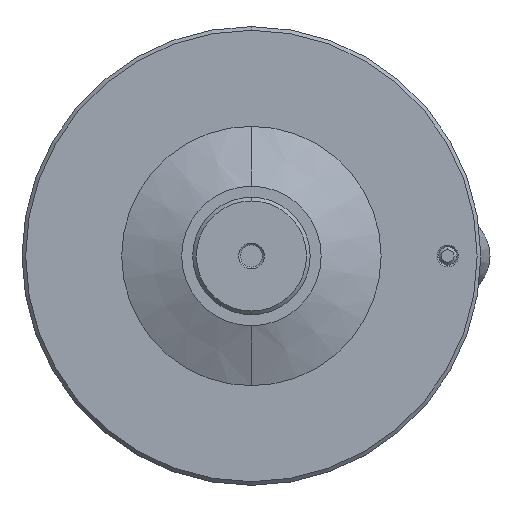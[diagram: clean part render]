
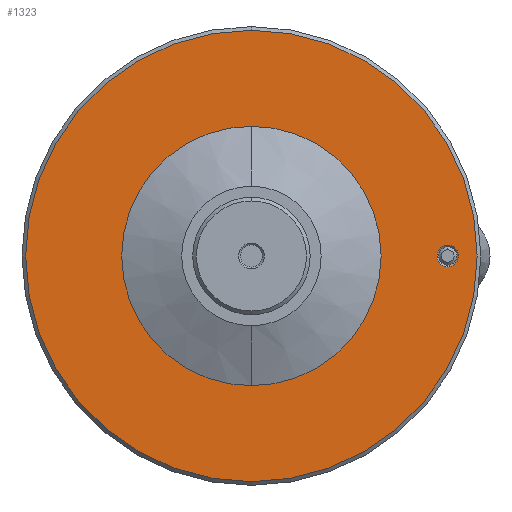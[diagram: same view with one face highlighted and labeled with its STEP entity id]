
A CAD part, front view. The second image highlights one B-rep face of the part: STEP entity #1323.
In plain terms, the highlighted planar face has unit normal (0, -1, 0).
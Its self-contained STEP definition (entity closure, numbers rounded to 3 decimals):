
#72 = CARTESIAN_POINT ( 'NONE',  ( 53.5, -8., 2.9 ) ) ;
#83 = AXIS2_PLACEMENT_3D ( 'NONE', #1288, #1410, #122 ) ;
#116 = DIRECTION ( 'NONE',  ( 0., -1., 0. ) ) ;
#122 = DIRECTION ( 'NONE',  ( 0., 0., -1. ) ) ;
#124 = CARTESIAN_POINT ( 'NONE',  ( 53.5, -8., 0. ) ) ;
#219 = CIRCLE ( 'NONE', #968, 61.5 ) ;
#247 = FACE_OUTER_BOUND ( 'NONE', #1311, .T. ) ;
#264 = CIRCLE ( 'NONE', #504, 2.9 ) ;
#296 = DIRECTION ( 'NONE',  ( 0., 0., -1. ) ) ;
#310 = CARTESIAN_POINT ( 'NONE',  ( 53.5, -8., -2.9 ) ) ;
#352 = ORIENTED_EDGE ( 'NONE', *, *, #724, .T. ) ;
#363 = DIRECTION ( 'NONE',  ( 0., -1., 0. ) ) ;
#400 = DIRECTION ( 'NONE',  ( 0., 0., -1. ) ) ;
#421 = DIRECTION ( 'NONE',  ( 0., 1., 0. ) ) ;
#431 = CARTESIAN_POINT ( 'NONE',  ( 0., -8., -61.5 ) ) ;
#438 = CIRCLE ( 'NONE', #1545, 2.9 ) ;
#458 = DIRECTION ( 'NONE',  ( 0., 1., 0. ) ) ;
#491 = VERTEX_POINT ( 'NONE', #554 ) ;
#504 = AXIS2_PLACEMENT_3D ( 'NONE', #124, #1246, #400 ) ;
#510 = EDGE_CURVE ( 'NONE', #491, #1622, #529, .T. ) ;
#529 = CIRCLE ( 'NONE', #847, 35.338 ) ;
#550 = CIRCLE ( 'NONE', #655, 35.338 ) ;
#554 = CARTESIAN_POINT ( 'NONE',  ( 0., -8., 35.338 ) ) ;
#578 = EDGE_CURVE ( 'NONE', #1482, #1639, #264, .T. ) ;
#618 = FACE_BOUND ( 'NONE', #627, .T. ) ;
#627 = EDGE_LOOP ( 'NONE', ( #864, #740 ) ) ;
#645 = FACE_BOUND ( 'NONE', #1285, .T. ) ;
#655 = AXIS2_PLACEMENT_3D ( 'NONE', #762, #1339, #1201 ) ;
#658 = CARTESIAN_POINT ( 'NONE',  ( 0., -8., 61.5 ) ) ;
#720 = DIRECTION ( 'NONE',  ( 0., 0., 1. ) ) ;
#724 = EDGE_CURVE ( 'NONE', #1639, #1482, #438, .T. ) ;
#740 = ORIENTED_EDGE ( 'NONE', *, *, #1517, .T. ) ;
#741 = CARTESIAN_POINT ( 'NONE',  ( 53.5, -8., 0. ) ) ;
#762 = CARTESIAN_POINT ( 'NONE',  ( 0., -8., 0. ) ) ;
#787 = DIRECTION ( 'NONE',  ( 0., 0., -1. ) ) ;
#847 = AXIS2_PLACEMENT_3D ( 'NONE', #1540, #421, #720 ) ;
#864 = ORIENTED_EDGE ( 'NONE', *, *, #510, .T. ) ;
#913 = CARTESIAN_POINT ( 'NONE',  ( 0., -8., -35.338 ) ) ;
#955 = VERTEX_POINT ( 'NONE', #658 ) ;
#968 = AXIS2_PLACEMENT_3D ( 'NONE', #1351, #363, #787 ) ;
#985 = EDGE_CURVE ( 'NONE', #1308, #955, #219, .T. ) ;
#1163 = ORIENTED_EDGE ( 'NONE', *, *, #578, .T. ) ;
#1201 = DIRECTION ( 'NONE',  ( 0., 0., 1. ) ) ;
#1233 = EDGE_CURVE ( 'NONE', #955, #1308, #1370, .T. ) ;
#1246 = DIRECTION ( 'NONE',  ( 0., 1., 0. ) ) ;
#1275 = AXIS2_PLACEMENT_3D ( 'NONE', #1558, #116, #1827 ) ;
#1285 = EDGE_LOOP ( 'NONE', ( #1163, #352 ) ) ;
#1288 = CARTESIAN_POINT ( 'NONE',  ( 0., -8., 35.338 ) ) ;
#1308 = VERTEX_POINT ( 'NONE', #431 ) ;
#1311 = EDGE_LOOP ( 'NONE', ( #1480, #1604 ) ) ;
#1323 = ADVANCED_FACE ( 'NONE', ( #645, #247, #618 ), #1850, .T. ) ;
#1339 = DIRECTION ( 'NONE',  ( 0., 1., 0. ) ) ;
#1351 = CARTESIAN_POINT ( 'NONE',  ( 0., -8., 0. ) ) ;
#1370 = CIRCLE ( 'NONE', #1275, 61.5 ) ;
#1410 = DIRECTION ( 'NONE',  ( 0., -1., 0. ) ) ;
#1480 = ORIENTED_EDGE ( 'NONE', *, *, #1233, .T. ) ;
#1482 = VERTEX_POINT ( 'NONE', #310 ) ;
#1517 = EDGE_CURVE ( 'NONE', #1622, #491, #550, .T. ) ;
#1540 = CARTESIAN_POINT ( 'NONE',  ( 0., -8., 0. ) ) ;
#1545 = AXIS2_PLACEMENT_3D ( 'NONE', #741, #458, #296 ) ;
#1558 = CARTESIAN_POINT ( 'NONE',  ( 0., -8., 0. ) ) ;
#1604 = ORIENTED_EDGE ( 'NONE', *, *, #985, .T. ) ;
#1622 = VERTEX_POINT ( 'NONE', #913 ) ;
#1639 = VERTEX_POINT ( 'NONE', #72 ) ;
#1827 = DIRECTION ( 'NONE',  ( 0., 0., -1. ) ) ;
#1850 = PLANE ( 'NONE',  #83 ) ;
